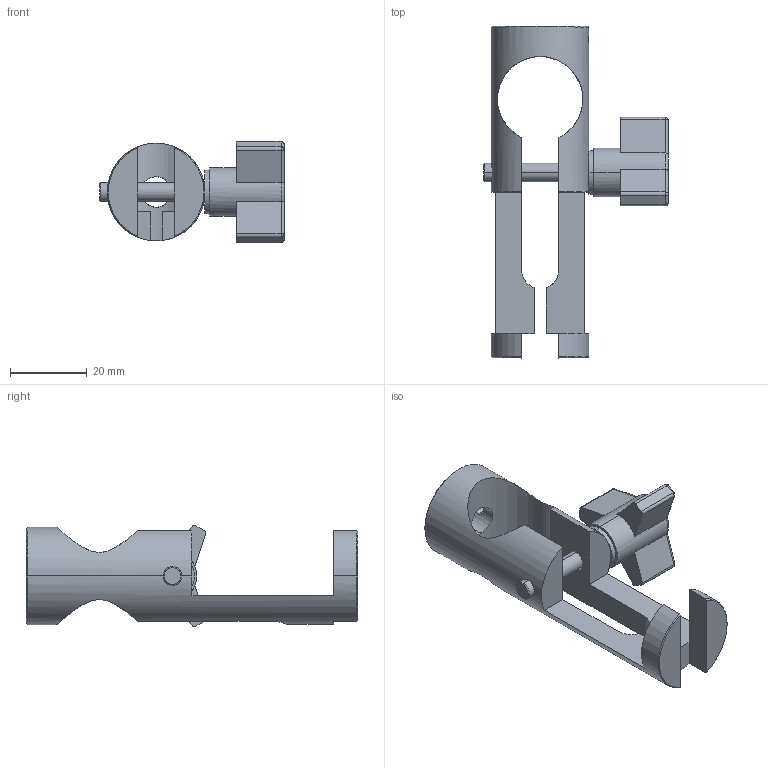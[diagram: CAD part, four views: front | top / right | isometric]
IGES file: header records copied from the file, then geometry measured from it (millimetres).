
Global section: file name: No Iges File Name specified; native system: Autodesk Inventor 2010; preprocessor: AutoDesk Inventor Iges Exporter R2010; author: mlampen; date: 20170419.124255; units: inch
Bounding box: 47.96 x 86.36 x 26.33 mm (x, y, z)
Volume: 18282 mm3; surface area: 10614.4 mm2
Topology: 2 solids, 2 shells, 197 faces, 448 edges, 285 vertices
Faces by surface type: plane 68, cylinder 59, revolution 53, cone 6, sphere 6, torus 3, bspline 2
